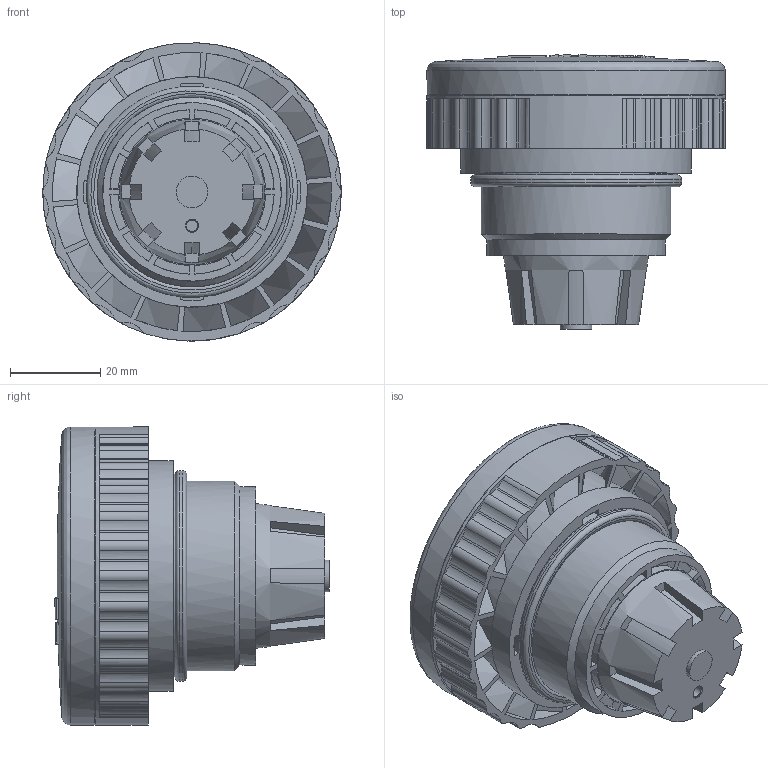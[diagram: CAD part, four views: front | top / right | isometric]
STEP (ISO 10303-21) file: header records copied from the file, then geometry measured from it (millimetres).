
FILE_DESCRIPTION((''),'2;1');
FILE_NAME('U:\Users\r.stiegele\L1.stp','2014-03-11T10:08:41',('User'), ('SDRC'),'I-DEAS Master Series 9','UNIX','Yes');
FILE_SCHEMA(('AUTOMOTIVE_DESIGN { 1 0 10303 214 1 1 1 1 }'));
Length unit declared in the file: millimetre
Products named in the file (1): 14653000(277609)
Bounding box: 66 x 60.66 x 65.96 mm (x, y, z)
Volume: 103581.6 mm3; surface area: 24038.8 mm2
Topology: 1 solids, 3 shells, 629 faces, 1686 edges, 1094 vertices
Faces by surface type: bspline 629
Entity records: 21216 total; most frequent: CARTESIAN_POINT 11820, ORIENTED_EDGE 3370, EDGE_CURVE 1685, VERTEX_POINT 1094, EDGE_LOOP 665, FACE_OUTER_BOUND 629, ADVANCED_FACE 629, B_SPLINE_CURVE_WITH_KNOTS 600
